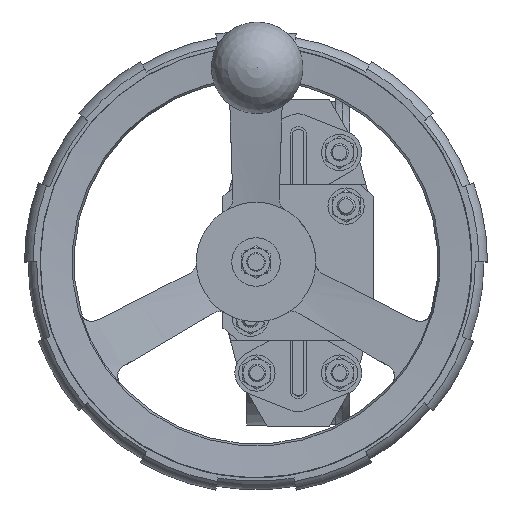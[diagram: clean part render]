
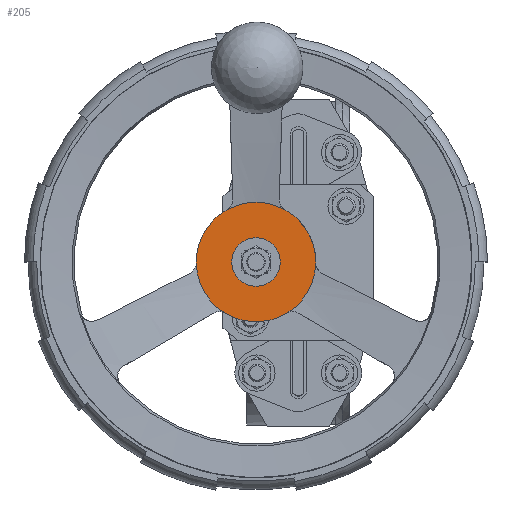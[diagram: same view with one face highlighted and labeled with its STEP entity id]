
A CAD part, top view. The second image highlights one B-rep face of the part: STEP entity #205.
In plain terms, the highlighted planar face has unit normal (0, 0, 1).
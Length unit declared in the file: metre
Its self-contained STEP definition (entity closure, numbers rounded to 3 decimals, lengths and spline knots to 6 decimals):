
#205=ADVANCED_FACE('',(#1095,#1096),#1097,.T.);
#1095=FACE_OUTER_BOUND('',#3221,.T.);
#1096=FACE_BOUND('',#3222,.T.);
#1097=PLANE('',#3223);
#3221=EDGE_LOOP('',(#6071,#6072,#6073,#6074,#6075,#6076));
#3222=EDGE_LOOP('',(#6077,#6078,#6079,#6080));
#3223=AXIS2_PLACEMENT_3D('',#6081,#6082,#6083);
#6071=ORIENTED_EDGE('',*,*,#11108,.F.);
#6072=ORIENTED_EDGE('',*,*,#11109,.T.);
#6073=ORIENTED_EDGE('',*,*,#11104,.F.);
#6074=ORIENTED_EDGE('',*,*,#11096,.T.);
#6075=ORIENTED_EDGE('',*,*,#11100,.F.);
#6076=ORIENTED_EDGE('',*,*,#11110,.T.);
#6077=ORIENTED_EDGE('',*,*,#11111,.T.);
#6078=ORIENTED_EDGE('',*,*,#11112,.T.);
#6079=ORIENTED_EDGE('',*,*,#11113,.T.);
#6080=ORIENTED_EDGE('',*,*,#11114,.T.);
#6081=CARTESIAN_POINT('',(-0.023,0.0325,0.4195));
#6082=DIRECTION('',(0.,0.,1.));
#6083=DIRECTION('',(1.,0.,0.));
#11096=EDGE_CURVE('',#13119,#13117,#13120,.T.);
#11100=EDGE_CURVE('',#13124,#13117,#13126,.T.);
#11104=EDGE_CURVE('',#13119,#13130,#13131,.T.);
#11108=EDGE_CURVE('',#13137,#13138,#13139,.T.);
#11109=EDGE_CURVE('',#13137,#13130,#13140,.T.);
#11110=EDGE_CURVE('',#13124,#13138,#13141,.T.);
#11111=EDGE_CURVE('',#13142,#13143,#13144,.T.);
#11112=EDGE_CURVE('',#13143,#13145,#13146,.T.);
#11113=EDGE_CURVE('',#13145,#13147,#13148,.T.);
#11114=EDGE_CURVE('',#13147,#13142,#13149,.T.);
#13117=VERTEX_POINT('',#17655);
#13119=VERTEX_POINT('',#17658);
#13120=CIRCLE('',#17659,0.0325);
#13124=VERTEX_POINT('',#17671);
#13126=CIRCLE('',#17687,0.0325);
#13130=VERTEX_POINT('',#17781);
#13131=CIRCLE('',#17782,0.0325);
#13137=VERTEX_POINT('',#17862);
#13138=VERTEX_POINT('',#17863);
#13139=CIRCLE('',#17864,0.0325);
#13140=CIRCLE('',#17865,0.0325);
#13141=CIRCLE('',#17866,0.0325);
#13142=VERTEX_POINT('',#17867);
#13143=VERTEX_POINT('',#17868);
#13144=LINE('',#17869,#17870);
#13145=VERTEX_POINT('',#17871);
#13146=LINE('',#17872,#17873);
#13147=VERTEX_POINT('',#17874);
#13148=LINE('',#17875,#17876);
#13149=LINE('',#17877,#17878);
#17655=CARTESIAN_POINT('',(-0.006153,-0.027793,0.4195));
#17658=CARTESIAN_POINT('',(-0.039847,-0.027793,0.4195));
#17659=AXIS2_PLACEMENT_3D('',#22641,#22642,#22643);
#17671=CARTESIAN_POINT('',(0.009496,-0.00053,0.4195));
#17687=AXIS2_PLACEMENT_3D('',#22645,#22646,#22647);
#17781=CARTESIAN_POINT('',(-0.055496,-0.00053,0.4195));
#17782=AXIS2_PLACEMENT_3D('',#22648,#22649,#22650);
#17862=CARTESIAN_POINT('',(-0.038717,0.028447,0.4195));
#17863=CARTESIAN_POINT('',(-0.007283,0.028447,0.4195));
#17864=AXIS2_PLACEMENT_3D('',#22651,#22652,#22653);
#17865=AXIS2_PLACEMENT_3D('',#22654,#22655,#22656);
#17866=AXIS2_PLACEMENT_3D('',#22657,#22658,#22659);
#17867=CARTESIAN_POINT('',(-0.017,0.006,0.4195));
#17868=CARTESIAN_POINT('',(-0.017,-0.006,0.4195));
#17869=CARTESIAN_POINT('',(-0.017,0.006,0.4195));
#17870=VECTOR('',#22660,1.);
#17871=CARTESIAN_POINT('',(-0.029,-0.006,0.4195));
#17872=CARTESIAN_POINT('',(-0.017,-0.006,0.4195));
#17873=VECTOR('',#22661,1.);
#17874=CARTESIAN_POINT('',(-0.029,0.006,0.4195));
#17875=CARTESIAN_POINT('',(-0.029,-0.006,0.4195));
#17876=VECTOR('',#22662,1.);
#17877=CARTESIAN_POINT('',(-0.029,0.006,0.4195));
#17878=VECTOR('',#22663,1.);
#22641=CARTESIAN_POINT('',(-0.023,0.,0.4195));
#22642=DIRECTION('',(0.,0.,1.));
#22643=DIRECTION('',(1.,0.,0.));
#22645=CARTESIAN_POINT('',(-0.023,0.,0.4195));
#22646=DIRECTION('',(0.,0.,-1.));
#22647=DIRECTION('',(-1.,0.,0.));
#22648=CARTESIAN_POINT('',(-0.023,0.,0.4195));
#22649=DIRECTION('',(0.,0.,-1.));
#22650=DIRECTION('',(-1.,0.,0.));
#22651=CARTESIAN_POINT('',(-0.023,0.,0.4195));
#22652=DIRECTION('',(0.,0.,-1.));
#22653=DIRECTION('',(-1.,0.,0.));
#22654=CARTESIAN_POINT('',(-0.023,0.,0.4195));
#22655=DIRECTION('',(0.,0.,1.));
#22656=DIRECTION('',(1.,0.,0.));
#22657=CARTESIAN_POINT('',(-0.023,0.,0.4195));
#22658=DIRECTION('',(0.,0.,1.));
#22659=DIRECTION('',(1.,0.,0.));
#22660=DIRECTION('',(0.,-1.,0.));
#22661=DIRECTION('',(-1.,0.,0.));
#22662=DIRECTION('',(0.,1.,0.));
#22663=DIRECTION('',(1.,0.,0.));
